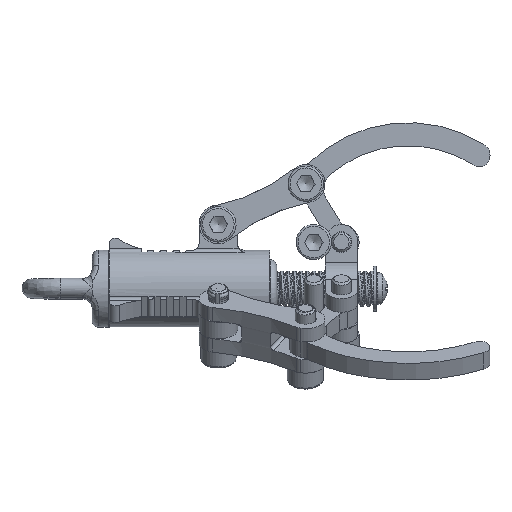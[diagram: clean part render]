
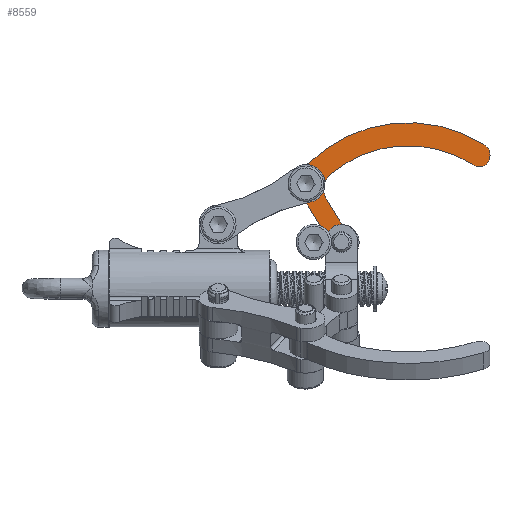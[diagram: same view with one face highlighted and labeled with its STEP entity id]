
A CAD part, left-side view. The second image highlights one B-rep face of the part: STEP entity #8559.
In plain terms, the highlighted planar face has unit normal (-1, 0, 0) as drawn and (0, 0, -1) by its records, which use the part's own axes.
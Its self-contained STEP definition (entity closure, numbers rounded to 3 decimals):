
#1099=FACE_BOUND('',#3510,.T.);
#1100=FACE_BOUND('',#3511,.T.);
#1243=PLANE('',#9542);
#1978=LINE('',#32016,#2473);
#1980=LINE('',#32025,#2475);
#2473=VECTOR('',#11703,10.);
#2475=VECTOR('',#11713,10.);
#3049=FACE_OUTER_BOUND('',#3509,.T.);
#3509=EDGE_LOOP('',(#7825,#7826,#7827,#7828,#7829,#7830,#7831,#7832,#7833,
#7834,#7835,#7836,#7837));
#3510=EDGE_LOOP('',(#7838));
#3511=EDGE_LOOP('',(#7839));
#3897=CIRCLE('',#9518,3.);
#3899=CIRCLE('',#9521,22.185);
#3901=CIRCLE('',#9524,3.);
#3904=CIRCLE('',#9528,2.5);
#3905=CIRCLE('',#9530,3.);
#3907=CIRCLE('',#9533,2.5);
#3909=CIRCLE('',#9536,3.);
#3912=CIRCLE('',#9541,2.);
#3913=CIRCLE('',#9543,3.);
#3914=CIRCLE('',#9544,18.602);
#3915=CIRCLE('',#9545,2.);
#3916=CIRCLE('',#9546,1.6);
#3917=CIRCLE('',#9547,1.6);
#4631=VERTEX_POINT('',#31967);
#4632=VERTEX_POINT('',#31968);
#4635=VERTEX_POINT('',#31976);
#4637=VERTEX_POINT('',#31982);
#4638=VERTEX_POINT('',#31983);
#4641=VERTEX_POINT('',#31994);
#4642=VERTEX_POINT('',#31995);
#4645=VERTEX_POINT('',#32003);
#4647=VERTEX_POINT('',#32009);
#4650=VERTEX_POINT('',#32020);
#4651=VERTEX_POINT('',#32024);
#4652=VERTEX_POINT('',#32026);
#4653=VERTEX_POINT('',#32028);
#4654=VERTEX_POINT('',#32031);
#4655=VERTEX_POINT('',#32033);
#5705=EDGE_CURVE('',#4631,#4632,#3897,.T.);
#5709=EDGE_CURVE('',#4632,#4635,#3899,.T.);
#5712=EDGE_CURVE('',#4637,#4638,#3901,.T.);
#5717=EDGE_CURVE('',#4638,#4631,#3904,.T.);
#5718=EDGE_CURVE('',#4641,#4642,#3905,.T.);
#5722=EDGE_CURVE('',#4642,#4645,#3907,.T.);
#5725=EDGE_CURVE('',#4645,#4647,#3909,.T.);
#5729=EDGE_CURVE('',#4647,#4637,#1978,.T.);
#5731=EDGE_CURVE('',#4635,#4650,#3912,.T.);
#5733=EDGE_CURVE('',#4651,#4641,#1980,.T.);
#5734=EDGE_CURVE('',#4652,#4651,#3913,.T.);
#5735=EDGE_CURVE('',#4653,#4652,#3914,.T.);
#5736=EDGE_CURVE('',#4650,#4653,#3915,.T.);
#5737=EDGE_CURVE('',#4654,#4654,#3916,.T.);
#5738=EDGE_CURVE('',#4655,#4655,#3917,.T.);
#7825=ORIENTED_EDGE('',*,*,#5731,.F.);
#7826=ORIENTED_EDGE('',*,*,#5709,.F.);
#7827=ORIENTED_EDGE('',*,*,#5705,.F.);
#7828=ORIENTED_EDGE('',*,*,#5717,.F.);
#7829=ORIENTED_EDGE('',*,*,#5712,.F.);
#7830=ORIENTED_EDGE('',*,*,#5729,.F.);
#7831=ORIENTED_EDGE('',*,*,#5725,.F.);
#7832=ORIENTED_EDGE('',*,*,#5722,.F.);
#7833=ORIENTED_EDGE('',*,*,#5718,.F.);
#7834=ORIENTED_EDGE('',*,*,#5733,.F.);
#7835=ORIENTED_EDGE('',*,*,#5734,.F.);
#7836=ORIENTED_EDGE('',*,*,#5735,.F.);
#7837=ORIENTED_EDGE('',*,*,#5736,.F.);
#7838=ORIENTED_EDGE('',*,*,#5737,.T.);
#7839=ORIENTED_EDGE('',*,*,#5738,.T.);
#8559=ADVANCED_FACE('',(#3049,#1099,#1100),#1243,.F.);
#9518=AXIS2_PLACEMENT_3D('',#31969,#11651,#11652);
#9521=AXIS2_PLACEMENT_3D('',#31977,#11659,#11660);
#9524=AXIS2_PLACEMENT_3D('',#31984,#11666,#11667);
#9528=AXIS2_PLACEMENT_3D('',#31992,#11676,#11677);
#9530=AXIS2_PLACEMENT_3D('',#31996,#11680,#11681);
#9533=AXIS2_PLACEMENT_3D('',#32004,#11688,#11689);
#9536=AXIS2_PLACEMENT_3D('',#32010,#11695,#11696);
#9541=AXIS2_PLACEMENT_3D('',#32021,#11708,#11709);
#9542=AXIS2_PLACEMENT_3D('',#32023,#11711,#11712);
#9543=AXIS2_PLACEMENT_3D('',#32027,#11714,#11715);
#9544=AXIS2_PLACEMENT_3D('',#32029,#11716,#11717);
#9545=AXIS2_PLACEMENT_3D('',#32030,#11718,#11719);
#9546=AXIS2_PLACEMENT_3D('',#32032,#11720,#11721);
#9547=AXIS2_PLACEMENT_3D('',#32034,#11722,#11723);
#11651=DIRECTION('center_axis',(0.,0.,-1.));
#11652=DIRECTION('ref_axis',(1.,-0.008,0.));
#11659=DIRECTION('center_axis',(0.,0.,1.));
#11660=DIRECTION('ref_axis',(-0.924,0.382,0.));
#11666=DIRECTION('center_axis',(0.,0.,-1.));
#11667=DIRECTION('ref_axis',(-0.302,-0.953,0.));
#11676=DIRECTION('center_axis',(0.,0.,1.));
#11677=DIRECTION('ref_axis',(1.,0.,0.));
#11680=DIRECTION('center_axis',(0.,0.,-1.));
#11681=DIRECTION('ref_axis',(0.302,0.953,0.));
#11688=DIRECTION('center_axis',(0.,0.,1.));
#11689=DIRECTION('ref_axis',(1.,0.,0.));
#11695=DIRECTION('center_axis',(0.,0.,-1.));
#11696=DIRECTION('ref_axis',(0.302,-0.953,0.));
#11703=DIRECTION('',(-1.,0.,0.));
#11708=DIRECTION('center_axis',(0.,0.,1.));
#11709=DIRECTION('ref_axis',(-0.447,-0.895,0.));
#11711=DIRECTION('center_axis',(0.,0.,1.));
#11712=DIRECTION('ref_axis',(1.,0.,0.));
#11713=DIRECTION('',(1.,0.,0.));
#11714=DIRECTION('center_axis',(0.,0.,-1.));
#11715=DIRECTION('ref_axis',(-0.648,0.761,0.));
#11716=DIRECTION('center_axis',(0.,0.,-1.));
#11717=DIRECTION('ref_axis',(0.956,-0.295,0.));
#11718=DIRECTION('center_axis',(0.,0.,1.));
#11719=DIRECTION('ref_axis',(0.849,0.529,0.));
#11720=DIRECTION('center_axis',(0.,0.,1.));
#11721=DIRECTION('ref_axis',(1.,0.,0.));
#11722=DIRECTION('center_axis',(0.,0.,1.));
#11723=DIRECTION('ref_axis',(1.,0.,0.));
#31967=CARTESIAN_POINT('',(-13.08,-2.038,0.));
#31968=CARTESIAN_POINT('',(-13.09,-3.375,0.));
#31969=CARTESIAN_POINT('Origin',(-16.01,-2.684,0.));
#31976=CARTESIAN_POINT('',(-1.413,-28.334,0.));
#31977=CARTESIAN_POINT('Origin',(8.498,-8.486,0.));
#31982=CARTESIAN_POINT('',(-7.476,0.,0.));
#31983=CARTESIAN_POINT('',(-9.201,0.545,0.));
#31984=CARTESIAN_POINT('Origin',(-7.476,3.,0.));
#31992=CARTESIAN_POINT('Origin',(-10.638,-1.5,0.));
#31994=CARTESIAN_POINT('',(-3.162,-3.,0.));
#31995=CARTESIAN_POINT('',(-1.437,-3.545,0.));
#31996=CARTESIAN_POINT('Origin',(-3.162,-6.,0.));
#32003=CARTESIAN_POINT('',(-1.437,0.545,0.));
#32004=CARTESIAN_POINT('Origin',(0.,-1.5,0.));
#32009=CARTESIAN_POINT('',(-3.162,0.,0.));
#32010=CARTESIAN_POINT('Origin',(-3.162,3.,0.));
#32016=CARTESIAN_POINT('',(0.,0.,0.));
#32020=CARTESIAN_POINT('',(1.431,-26.985,0.));
#32021=CARTESIAN_POINT('Origin',(-0.519,-26.544,0.));
#32023=CARTESIAN_POINT('Origin',(-5.593,-14.258,0.));
#32024=CARTESIAN_POINT('',(-6.905,-3.,0.));
#32025=CARTESIAN_POINT('',(-9.277,-3.,0.));
#32026=CARTESIAN_POINT('',(-9.866,-5.522,0.));
#32027=CARTESIAN_POINT('Origin',(-6.905,-6.,0.));
#32028=CARTESIAN_POINT('',(0.312,-25.19,0.));
#32029=CARTESIAN_POINT('Origin',(8.498,-8.486,0.));
#32030=CARTESIAN_POINT('Origin',(-0.569,-26.985,0.));
#32031=CARTESIAN_POINT('',(-12.238,-1.5,0.));
#32032=CARTESIAN_POINT('Origin',(-10.638,-1.5,0.));
#32033=CARTESIAN_POINT('',(-1.6,-1.5,0.));
#32034=CARTESIAN_POINT('Origin',(0.,-1.5,0.));
